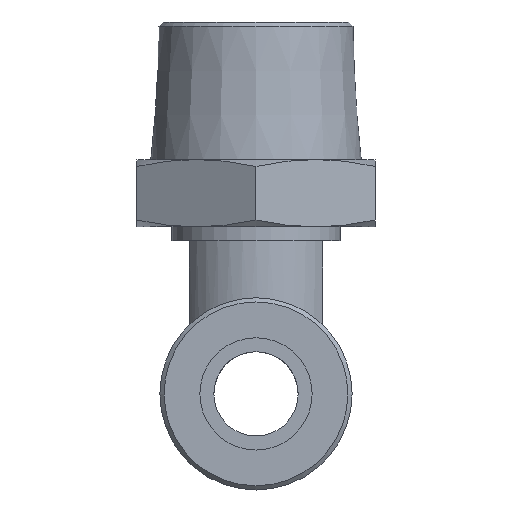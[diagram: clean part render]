
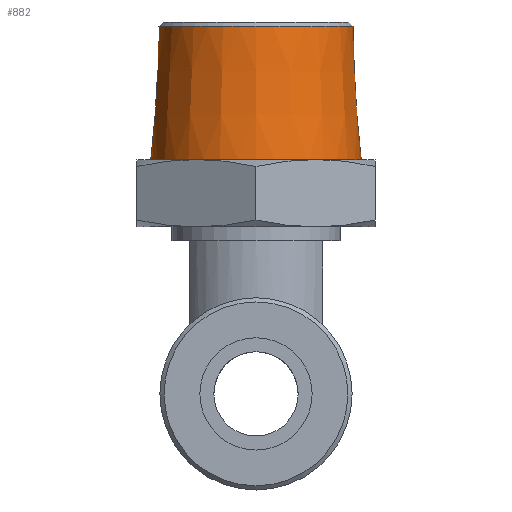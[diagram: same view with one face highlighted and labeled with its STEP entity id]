
A CAD part, front view. The second image highlights one B-rep face of the part: STEP entity #882.
In plain terms, the highlighted conical face has half-angle 3.5 degrees and reference radius 7.2 mm.
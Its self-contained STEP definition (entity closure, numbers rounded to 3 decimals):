
#78=CONICAL_SURFACE('',#973,7.2,0.061);
#97=FACE_OUTER_BOUND('',#159,.T.);
#159=EDGE_LOOP('',(#606,#607,#608,#609,#610));
#237=LINE('',#1415,#279);
#279=VECTOR('',#1116,7.2);
#321=CIRCLE('',#971,6.919);
#322=CIRCLE('',#972,6.919);
#323=CIRCLE('',#974,7.5);
#386=VERTEX_POINT('',#1408);
#387=VERTEX_POINT('',#1410);
#388=VERTEX_POINT('',#1414);
#469=EDGE_CURVE('',#386,#387,#321,.T.);
#470=EDGE_CURVE('',#387,#386,#322,.T.);
#471=EDGE_CURVE('',#387,#388,#237,.T.);
#472=EDGE_CURVE('',#388,#388,#323,.T.);
#606=ORIENTED_EDGE('',*,*,#469,.F.);
#607=ORIENTED_EDGE('',*,*,#470,.F.);
#608=ORIENTED_EDGE('',*,*,#471,.T.);
#609=ORIENTED_EDGE('',*,*,#472,.F.);
#610=ORIENTED_EDGE('',*,*,#471,.F.);
#882=ADVANCED_FACE('',(#97),#78,.T.);
#971=AXIS2_PLACEMENT_3D('',#1411,#1110,#1111);
#972=AXIS2_PLACEMENT_3D('',#1412,#1112,#1113);
#973=AXIS2_PLACEMENT_3D('',#1413,#1114,#1115);
#974=AXIS2_PLACEMENT_3D('',#1416,#1117,#1118);
#1110=DIRECTION('center_axis',(0.,0.,1.));
#1111=DIRECTION('ref_axis',(0.,-1.,0.));
#1112=DIRECTION('center_axis',(0.,0.,1.));
#1113=DIRECTION('ref_axis',(0.,-1.,0.));
#1114=DIRECTION('center_axis',(0.,0.,-1.));
#1115=DIRECTION('ref_axis',(0.,1.,0.));
#1116=DIRECTION('',(0.,-0.061,-0.998));
#1117=DIRECTION('center_axis',(0.,0.,-1.));
#1118=DIRECTION('ref_axis',(0.,1.,0.));
#1408=CARTESIAN_POINT('',(0.,6.919,26.201));
#1410=CARTESIAN_POINT('',(0.,-6.919,26.201));
#1411=CARTESIAN_POINT('Origin',(0.,0.,
26.201));
#1412=CARTESIAN_POINT('Origin',(0.,0.,
26.201));
#1413=CARTESIAN_POINT('Origin',(0.,0.,21.6));
#1414=CARTESIAN_POINT('',(0.,-7.5,16.7));
#1415=CARTESIAN_POINT('',(0.,-7.2,21.6));
#1416=CARTESIAN_POINT('Origin',(0.,0.,16.7));
